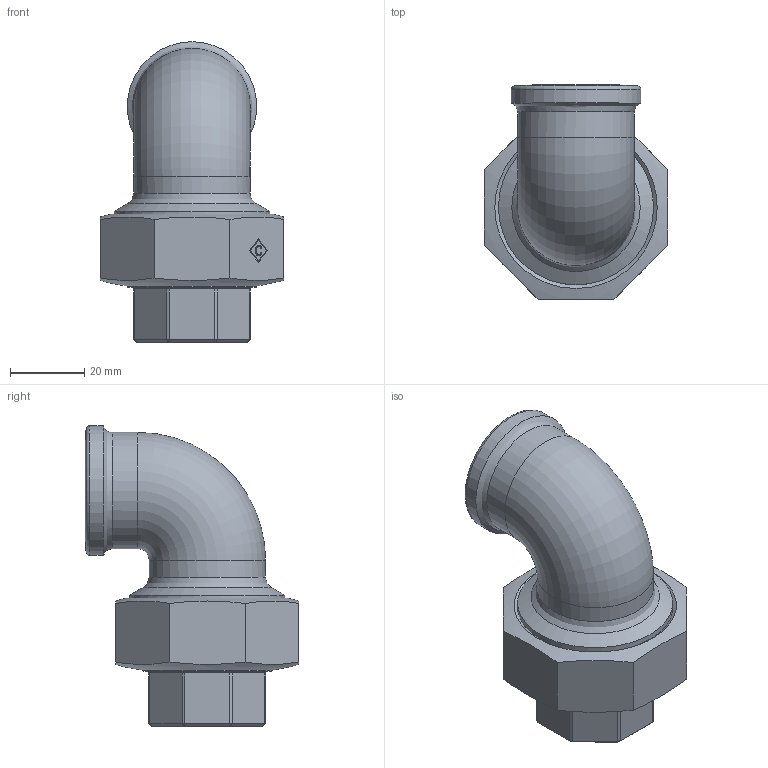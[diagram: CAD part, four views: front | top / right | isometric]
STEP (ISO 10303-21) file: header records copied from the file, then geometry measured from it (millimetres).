
FILE_DESCRIPTION((''),'2;1');
FILE_NAME('P:\Fastrack\53909_CRANE\Crane\Modified\Fig.261 Elbow Union\New 0.75 inch\261-0.75.stp','2009-09-18T09:20:21',('btaylor'),(''),'Autodesk Inventor 2008','Autodesk Inventor 2008','');
FILE_SCHEMA(('AUTOMOTIVE_DESIGN { 1 0 10303 214 1 1 1 1 }'));
Length unit declared in the file: millimetre
Products named in the file (1): 261-0.75
Bounding box: 49.53 x 57.77 x 81.17 mm (x, y, z)
Volume: 50528 mm3; surface area: 24072.5 mm2
Topology: 1 solids, 1 shells, 139 faces, 347 edges, 219 vertices
Faces by surface type: plane 54, cylinder 30, bspline 30, cone 17, torus 7, sphere 1
Full cylindrical faces by diameter (mm): 25.9 x1, 26.9 x1, 31.4 x2, 34.67 x1, 35 x1, 35.052 x1, 37.85 x1, 41.91 x2
Entity records: 5512 total; most frequent: CARTESIAN_POINT 2562, ORIENTED_EDGE 618, DIRECTION 527, EDGE_CURVE 309, VERTEX_POINT 208, AXIS2_PLACEMENT_3D 207, EDGE_LOOP 175, FACE_OUTER_BOUND 138
